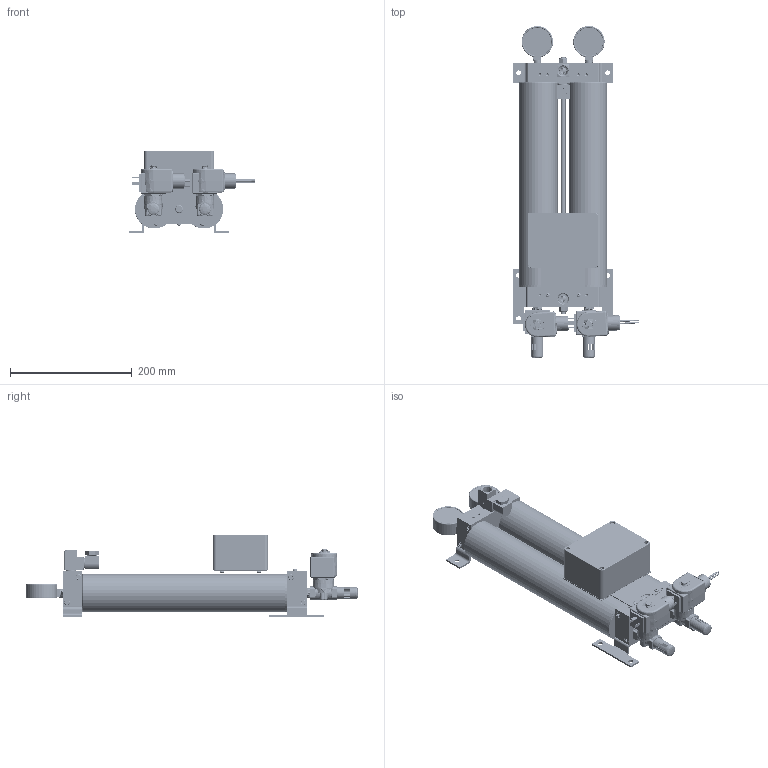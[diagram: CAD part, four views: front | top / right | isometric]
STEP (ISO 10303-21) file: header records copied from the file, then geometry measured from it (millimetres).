
FILE_DESCRIPTION (( 'STEP AP214' ), '1' );
FILE_NAME ('HR4-XX-XXXX.STEP', '2020-09-15T19:35:12', ( '' ), ( '' ), 'SwSTEP 2.0', 'SolidWorks 2017', '' );
FILE_SCHEMA (( 'AUTOMOTIVE_DESIGN' ));
Length unit declared in the file: inch
Products named in the file (1): HR4-XX-XXXX
Bounding box: 207.33 x 544.39 x 134.89 mm (x, y, z)
Volume: 1443725.4 mm3; surface area: 749138.2 mm2
Topology: 78 solids, 84 shells, 7602 faces, 20087 edges, 12735 vertices
Faces by surface type: plane 3056, cylinder 2391, cone 983, bspline 832, torus 302, sphere 38
Entity records: 443684 total; most frequent: CARTESIAN_POINT 166183, ORIENTED_EDGE 39762, DIRECTION 33626, EDGE_CURVE 19881, VERTEX_POINT 12735, AXIS2_PLACEMENT_3D 12056, VECTOR 9514, LINE 9514
